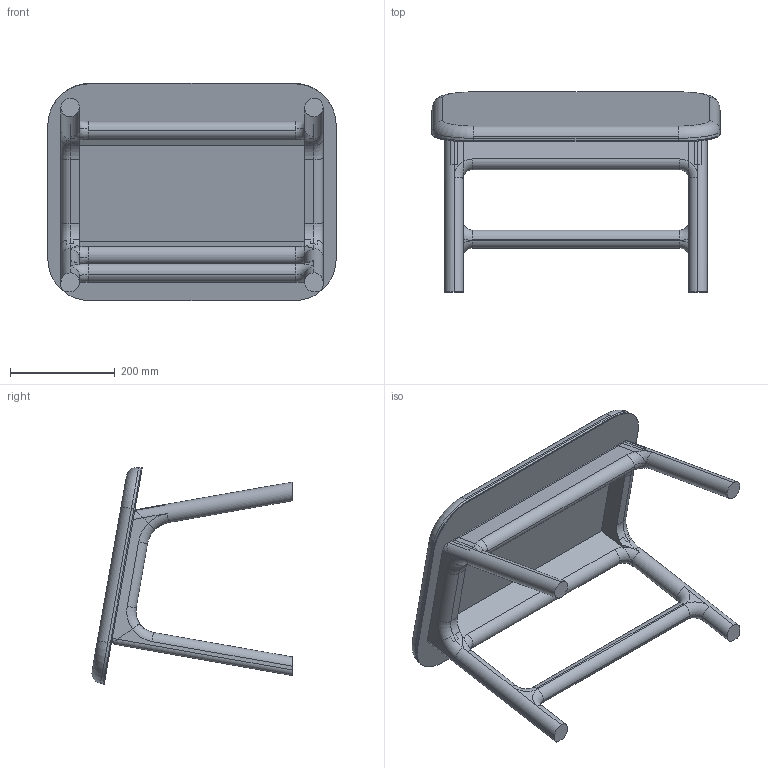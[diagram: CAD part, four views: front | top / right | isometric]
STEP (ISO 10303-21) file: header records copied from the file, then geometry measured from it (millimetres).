
FILE_DESCRIPTION (( 'STEP AP203' ), '1' );
FILE_NAME ('MARSHALL TABURE.STEP', '2020-07-09T06:45:25', ( '' ), ( '' ), 'SwSTEP 2.0', 'SolidWorks 2020', '' );
FILE_SCHEMA (( 'CONFIG_CONTROL_DESIGN' ));
Length unit declared in the file: millimetre
Products named in the file (3): Group3^tabure MARSHAL_defeature; MARSHALL TABURE; Group1^tabure MARSHAL_defeature
Assembly tree (2 placements, depth 2):
  MARSHALL TABURE
    Group1^tabure MARSHAL_defeature
    Group3^tabure MARSHAL_defeature
Bounding box: 550 x 382 x 414.15 mm (x, y, z)
Volume: 10156730.7 mm3; surface area: 894456.7 mm2
Topology: 2 solids, 2 shells, 157 faces, 396 edges, 240 vertices
Faces by surface type: cylinder 66, plane 51, torus 36, cone 4
Entity records: 5263 total; most frequent: CARTESIAN_POINT 1192, DIRECTION 834, ORIENTED_EDGE 792, EDGE_CURVE 396, AXIS2_PLACEMENT_3D 328, VERTEX_POINT 240, VECTOR 178, LINE 178
